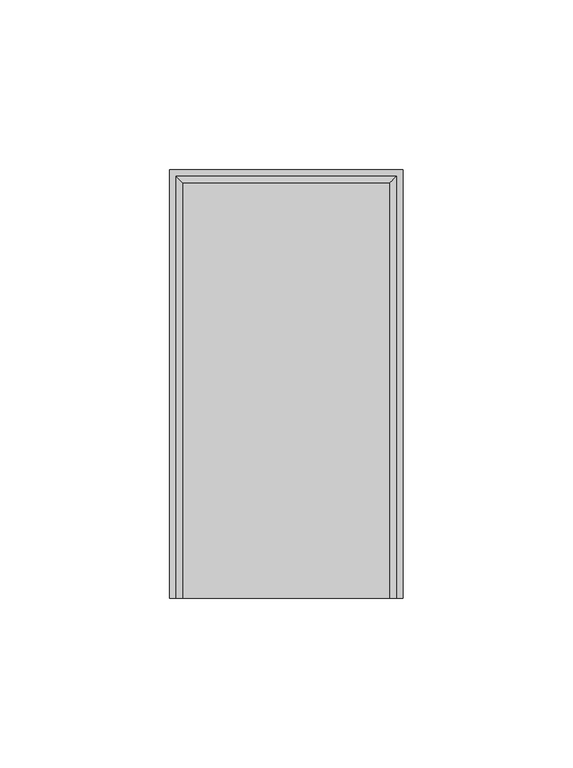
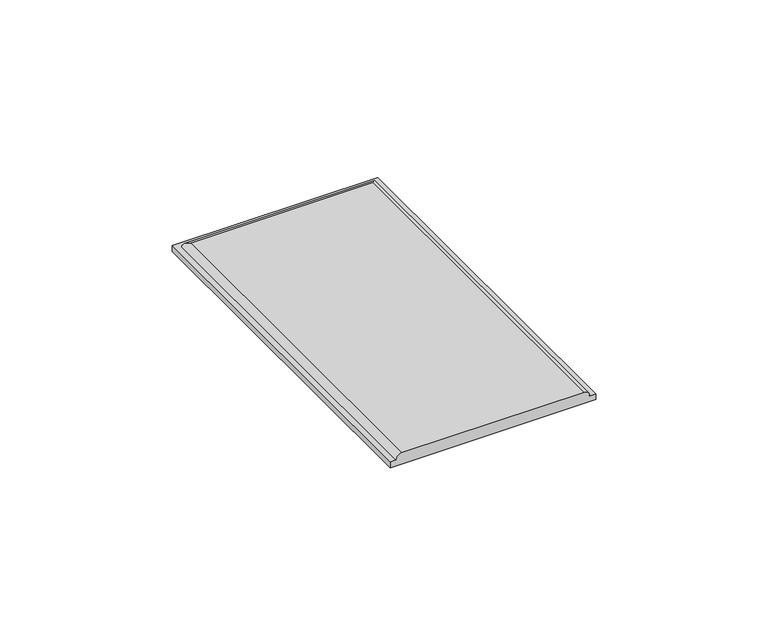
"""IFC4 building model written with IfcOpenShell, lengths in millimetres: proxy geometry, PBSHOP - HORIZONTES JAIPUR 6,5X23 : JAIPUR CHANDRA."""

import ifcopenshell
import ifcopenshell.guid

model = None  # the IFC model being written
_history = None  # IfcOwnerHistory: only IFC2X3 demands one
_inside = {}  # id of a spatial element -> (the spatial element, [elements in it])
_under = {}  # id of a project, library or spatial element -> (it, [spatial elements below it])
_declared = {}  # id of a project -> (the project, [libraries it declares])
_typed = {}  # id of a type object -> (the type object, [elements of that type])
_made_of = {}  # id of a material, layer set ... -> (it, [elements and type objects made of it])


def new_model(schema):
    """Start an empty IFC model of exactly this schema.

    Asked for "IFC4X3", IfcOpenShell would pick the latest addendum, in which some entities
    have other attributes; the version numbers below select the first issue.
    IFC2X3 requires an IfcOwnerHistory on every rooted entity: one is made here for all.
    """
    global model, _history
    if schema == "IFC4X3":
        model = ifcopenshell.file(schema_version=(4, 3, 0, 0))
    else:
        model = ifcopenshell.file(schema=schema)
    _inside.clear()
    _under.clear()
    _declared.clear()
    _typed.clear()
    _made_of.clear()
    _history = None
    if model.schema == "IFC2X3":
        org = make("IfcOrganization", Name="unknown")
        user = make(
            "IfcPersonAndOrganization",
            ThePerson=make("IfcPerson", FamilyName="unknown"),
            TheOrganization=org,
        )
        app = make(
            "IfcApplication",
            ApplicationDeveloper=org,
            Version="unknown",
            ApplicationFullName="unknown",
            ApplicationIdentifier="unknown",
        )
        _history = make(
            "IfcOwnerHistory",
            OwningUser=user,
            OwningApplication=app,
            ChangeAction="ADDED",
            CreationDate=0,
        )
    return model


def make(cls, **values):
    """One entity of the class cls with the attributes given. An attribute that is None is left unset."""
    return model.create_entity(
        cls, **{name: value for name, value in values.items() if value is not None}
    )


def rooted(cls, **values):
    """An entity with a GlobalId (a new one), such as an element, a storey or a relation."""
    return make(cls, GlobalId=ifcopenshell.guid.new(), OwnerHistory=_history, **values)


def si_unit(unit_type, name, prefix=None):
    """IfcSIUnit, for example si_unit("LENGTHUNIT", "METRE", prefix="MILLI")."""
    return make("IfcSIUnit", UnitType=unit_type, Prefix=prefix, Name=name)


def assignment(units):
    """IfcUnitAssignment: the units of a project."""
    return None if units is None else make("IfcUnitAssignment", Units=units)


def point(xyz):
    """IfcCartesianPoint."""
    return None if xyz is None else make("IfcCartesianPoint", Coordinates=xyz)


def direction(xyz):
    """IfcDirection."""
    return None if xyz is None else make("IfcDirection", DirectionRatios=xyz)


def frame(location, z_axis=None, x_axis=None):
    """IfcAxis2Placement3D, a coordinate frame: its origin and axes. An axis left out is left unset."""
    return make(
        "IfcAxis2Placement3D",
        Location=point(location),
        Axis=direction(z_axis),
        RefDirection=direction(x_axis),
    )


def origin():
    """The frame at (0, 0, 0) with its axes left unset."""
    return frame((0.0, 0.0, 0.0))


def place(relative_to, where):
    """IfcLocalPlacement: puts the frame where relative to a parent placement (None: the world)."""
    return make(
        "IfcLocalPlacement", PlacementRelTo=relative_to, RelativePlacement=where
    )


def context(
    kind, dimensions, precision=None, world=None, true_north=None, identifier=None
):
    """IfcGeometricRepresentationContext, for example the 3D "Model" context."""
    return make(
        "IfcGeometricRepresentationContext",
        ContextIdentifier=identifier,
        ContextType=kind,
        CoordinateSpaceDimension=dimensions,
        Precision=precision,
        WorldCoordinateSystem=world,
        TrueNorth=true_north,
    )


def project(units=None, contexts=None):
    """IfcProject with its units and contexts."""
    return rooted(
        "IfcProject",
        Name="project",
        RepresentationContexts=contexts,
        UnitsInContext=assignment(units),
    )


def spatial(cls, under=None, at=None, **own):
    """A site, building, storey or space (cls), placed at a placement, below another one or the project."""
    s = rooted(cls, ObjectPlacement=at, **own)
    if under is not None:
        _under.setdefault(under.id(), (under, []))[1].append(s)
    return s


def circle_curve(where, radius):
    """IfcCircle in the frame where."""
    return make("IfcCircle", Position=where, Radius=radius)


def ellipse_curve(where, semi_axis1, semi_axis2):
    """IfcEllipse in the frame where."""
    return make(
        "IfcEllipse", Position=where, SemiAxis1=semi_axis1, SemiAxis2=semi_axis2
    )


def shape(context_of_items, identifier, shape_type, items):
    """IfcShapeRepresentation: the items that make up one representation, for example the "Body"."""
    return make(
        "IfcShapeRepresentation",
        ContextOfItems=context_of_items,
        RepresentationIdentifier=identifier,
        RepresentationType=shape_type,
        Items=items,
    )


def source(mapping_origin, context_of_items, identifier, shape_type, items):
    """IfcRepresentationMap: a shape defined once, which mapped items show again and again."""
    return make(
        "IfcRepresentationMap",
        MappingOrigin=mapping_origin,
        MappedRepresentation=shape(context_of_items, identifier, shape_type, items),
    )


def transform(
    local_origin,
    x_axis=None,
    y_axis=None,
    z_axis=None,
    scale=None,
    scale2=None,
    scale3=None,
    uniform=True,
):
    """IfcCartesianTransformationOperator3D, or its non-uniform kind. x_axis, y_axis, z_axis: its Axis1, 2, 3."""
    if uniform:
        return make(
            "IfcCartesianTransformationOperator3D",
            Axis1=direction(x_axis),
            Axis2=direction(y_axis),
            LocalOrigin=point(local_origin),
            Scale=scale,
            Axis3=direction(z_axis),
        )
    return make(
        "IfcCartesianTransformationOperator3DnonUniform",
        Axis1=direction(x_axis),
        Axis2=direction(y_axis),
        LocalOrigin=point(local_origin),
        Scale=scale,
        Axis3=direction(z_axis),
        Scale2=scale2,
        Scale3=scale3,
    )


def mapped(mapping_source, mapping_target):
    """IfcMappedItem: shows the shape of a source again, moved by a transform."""
    return make(
        "IfcMappedItem", MappingSource=mapping_source, MappingTarget=mapping_target
    )


def made_of(thing, what):
    """Note that an element or type object is made of a material, layer set ...; save() writes the relation."""
    if what is not None:
        _made_of.setdefault(what.id(), (what, []))[1].append(thing)
    return thing


def element(
    cls,
    number,
    at=None,
    inside=None,
    cuts=None,
    type_object=None,
    material=None,
    context=None,
    identifier="Body",
    shape_type=None,
    held_by="IfcProductDefinitionShape",
    body=None,
    shapes=None,
    **own,
):
    """One element of the class cls, such as IfcWall. Its Tag is "e" and its number.

    at: its placement. inside: the storey or other place that contains it. cuts: it is an
    opening in that element (IfcRelVoidsElement). A single representation is given by context,
    identifier, shape_type and body (its items); several are given by shapes. held_by: the class
    of the entity that holds the representations. save() writes the other relations.
    """
    e = rooted(cls, Tag="e%d" % number, ObjectPlacement=at, **own)
    if body is not None:
        shapes = [shape(context, identifier, shape_type, body)]
    if shapes is not None:
        e.Representation = make(held_by, Representations=shapes)
    if inside is not None:
        _inside.setdefault(inside.id(), (inside, []))[1].append(e)
    if cuts is not None:
        rooted(
            "IfcRelVoidsElement", RelatingBuildingElement=cuts, RelatedOpeningElement=e
        )
    if type_object is not None:
        _typed.setdefault(type_object.id(), (type_object, []))[1].append(e)
    return made_of(e, material)


def aggregate(whole, parts):
    """IfcRelAggregates: a whole, such as a stair, and the parts it consists of."""
    return rooted("IfcRelAggregates", RelatingObject=whole, RelatedObjects=parts)


def save(model, path):
    """Write the relations noted so far, then the file.

    IfcRelAggregates (storeys below a building ...), IfcRelContainedInSpatialStructure (elements
    in a storey), IfcRelDefinesByType, IfcRelAssociatesMaterial and IfcRelDeclares: one each for
    every whole, place, type object, material and project.
    """
    for whole, parts in _under.values():
        aggregate(whole, parts)
    for where, things in _inside.values():
        rooted(
            "IfcRelContainedInSpatialStructure",
            RelatedElements=things,
            RelatingStructure=where,
        )
    for kind, things in _typed.values():
        rooted("IfcRelDefinesByType", RelatedObjects=things, RelatingType=kind)
    for what, things in _made_of.values():
        rooted("IfcRelAssociatesMaterial", RelatedObjects=things, RelatingMaterial=what)
    for by, libraries in _declared.values():
        rooted("IfcRelDeclares", RelatingContext=by, RelatedDefinitions=libraries)
    model.write(path)


def plane_surface(at):
    """IfcPlane: the flat surface through the origin of the frame at, square to its z axis."""
    return make("IfcPlane", Position=at)


def cylinder_surface(at, radius):
    """IfcCylindricalSurface: all points at the distance radius from the z axis of the frame at."""
    return make("IfcCylindricalSurface", Position=at, Radius=radius)


def advanced_brep(points, edges, surfaces, faces):
    """IfcAdvancedBrep: a solid bounded by faces that lie on surfaces and meet in shared edges.

    An edge is (start, end): straight between two places in points (the first is 0);
    or (start, end, curve); or (start, end, curve, False) where it runs against its curve.
    A face is (place in surfaces, loops), or (place, loops, False) where it looks against
    its surface's normal. A loop lists edges by number (the first is 1), with a minus sign
    where the edge is run from its end to its start. The first loop is the outer one.
    """
    corners = [point(p) for p in points]
    vertices = [make("IfcVertexPoint", VertexGeometry=c) for c in corners]
    made = []
    for start, end, *more in edges:
        made.append(
            make(
                "IfcEdgeCurve",
                EdgeStart=vertices[start],
                EdgeEnd=vertices[end],
                EdgeGeometry=more[0] if more else make("IfcPolyline", Points=[corners[start], corners[end]]),
                SameSense=more[1] if len(more) > 1 else True,
            )
        )
    hull = []
    for where, loops, *sense in faces:
        bounds = []
        for j, loop in enumerate(loops):
            ring = [make("IfcOrientedEdge", EdgeElement=made[abs(k) - 1], Orientation=k > 0) for k in loop]
            bounds.append(
                make(
                    "IfcFaceOuterBound" if j == 0 else "IfcFaceBound",
                    Bound=make("IfcEdgeLoop", EdgeList=ring),
                    Orientation=True,
                )
            )
        hull.append(make("IfcAdvancedFace", Bounds=bounds, FaceSurface=surfaces[where], SameSense=sense[0] if sense else True))
    return make("IfcAdvancedBrep", Outer=make("IfcClosedShell", CfsFaces=hull))


def generic_models_1527efce(model_context):
    return source(origin(), model_context, "Body", "AdvancedBrep", [
        advanced_brep(
        [(30.5, 113.0, 4.0), (-30.5, 113.0, 4.0), (-30.5, -9.5, 4.0), (30.5, -9.5, 4.0), (-34.5, 117.0, 0.0), (34.5, 117.0, 0.0), (34.5, -9.5, 0.0), (-34.5, -9.5, 0.0), (32.5, 115.0, 2.0), (32.5, -9.5, 2.0), (-32.5, 115.0, 2.0), (-32.5, -9.5, 2.0), (34.5, 117.0, 2.0), (-34.5, 117.0, 2.0), (-34.5, -9.5, 2.0), (34.5, -9.5, 2.0)],
        [
            (0, 1),
            (1, 2),
            (2, 3),
            (3, 0),
            (4, 5),
            (5, 6),
            (6, 7),
            (7, 4),
            (8, 0, ellipse_curve(frame((30.5, 113.0, 2.0), z_axis=(0.7071067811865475, -0.7071067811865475, 0.0), x_axis=(0.7071067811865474, 0.7071067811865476, 0.0)), 2.8284271, 2.0)),
            (3, 9, circle_curve(frame((30.5, -9.5, 2.0), z_axis=(0.0, 1.0, 0.0), x_axis=(-1.0, 0.0, 0.0)), 2.0)),
            (9, 8),
            (8, 10),
            (10, 1, ellipse_curve(frame((-30.5, 113.0, 2.0), z_axis=(0.7071067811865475, 0.7071067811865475, 0.0), x_axis=(-0.7071067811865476, 0.7071067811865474, 0.0)), 2.8284271, 2.0)),
            (10, 11),
            (11, 2, circle_curve(frame((-30.5, -9.5, 2.0), z_axis=(0.0, 1.0, 0.0), x_axis=(1.0, 0.0, 0.0)), 2.0)),
            (12, 13),
            (13, 14),
            (14, 11),
            (9, 15),
            (15, 12),
            (12, 5),
            (4, 13),
            (7, 14),
            (15, 6),
        ],
        [
            plane_surface(frame((-32.5, -115.0, 4.0), z_axis=(0.0, 0.0, 1.0), x_axis=(1.0, 0.0, 0.0))),
            plane_surface(frame((-32.5, -115.0, 0.0), z_axis=(0.0, 0.0, -1.0), x_axis=(-1.0, 0.0, 0.0))),
            cylinder_surface(frame((30.5, -115.0, 2.0), z_axis=(0.0, 1.0, 0.0), x_axis=(-1.0, 0.0, 0.0)), 2.0),
            cylinder_surface(frame((32.5, 113.0, 2.0), z_axis=(-1.0, 0.0, 0.0), x_axis=(0.0, -1.0, 0.0)), 2.0),
            cylinder_surface(frame((-30.5, 115.0, 2.0), z_axis=(0.0, -1.0, 0.0), x_axis=(1.0, 0.0, 0.0)), 2.0),
            plane_surface(frame((-34.5, 117.0, 2.0), z_axis=(0.0, 0.0, 1.0), x_axis=(-1.0, 0.0, 0.0))),
            plane_surface(frame((34.5, 117.0, 2.0), z_axis=(0.0, 1.0, 0.0), x_axis=(0.0, 0.0, -1.0))),
            plane_surface(frame((-34.5, 117.0, 2.0), z_axis=(-1.0, 0.0, 0.0), x_axis=(0.0, 0.0, -1.0))),
            plane_surface(frame((34.5, -117.0, 2.0), z_axis=(1.0, 0.0, 0.0), x_axis=(0.0, 0.0, -1.0))),
            plane_surface(frame((34.5, -9.5, 5.4723256), z_axis=(0.0, -1.0, 0.0), x_axis=(0.0, 0.0, -1.0))),
        ],
        [
            (0, [[1, 2, 3, 4]]),
            (1, [[5, 6, 7, 8]]),
            (2, [[9, -4, 10, 11]]),
            (3, [[-9, 12, 13, -1]]),
            (4, [[-13, 14, 15, -2]]),
            (5, [[16, 17, 18, -14, -12, -11, 19, 20]]),
            (6, [[-16, 21, -5, 22]]),
            (7, [[-22, -8, 23, -17]]),
            (8, [[-21, -20, 24, -6]]),
            (9, [[-3, -15, -18, -23, -7, -24, -19, -10]]),
        ],
    ),
    ])


if __name__ == "__main__":
    model = new_model("IFC4")
    model_context = context("Model", 3, world=origin())
    ifc_project = project(units=[si_unit("LENGTHUNIT", "METRE", prefix="MILLI")], contexts=[model_context])
    site = spatial("IfcSite", under=ifc_project)
    building = spatial("IfcBuilding", under=site)
    placement = place(None, origin())
    generic_models_shape = generic_models_1527efce(model_context)
    element("IfcBuildingElementProxy", 1, Name="PBSHOP - HORIZONTES JAIPUR 6,5X23 : JAIPUR CHANDRA", ObjectType="PBSHOP - HORIZONTES JAIPUR 6,5X23 : JAIPUR CHANDRA", at=placement, inside=building, context=model_context, shape_type="MappedRepresentation", body=[
        mapped(generic_models_shape, transform((0.0, 0.0, 0.0), x_axis=(1.0, 0.0, 0.0), y_axis=(0.0, 1.0, 0.0), z_axis=(0.0, 0.0, 1.0))),
    ])
    save(model, "model.ifc")
